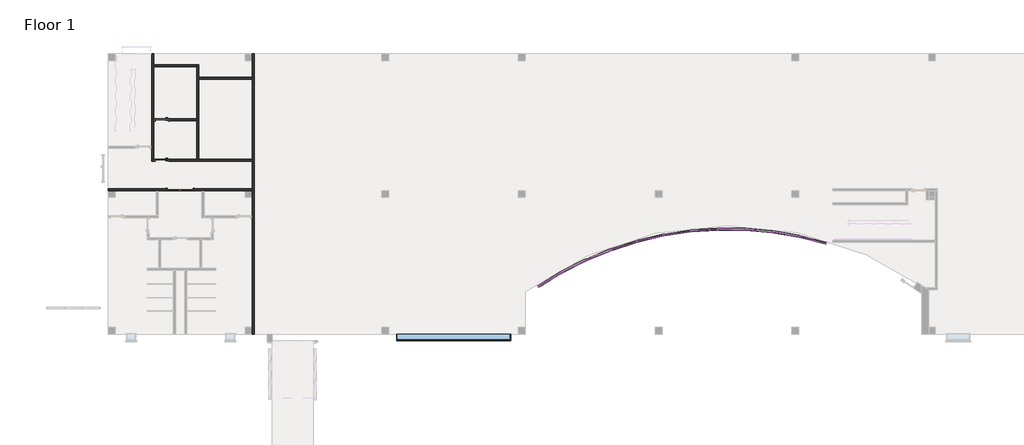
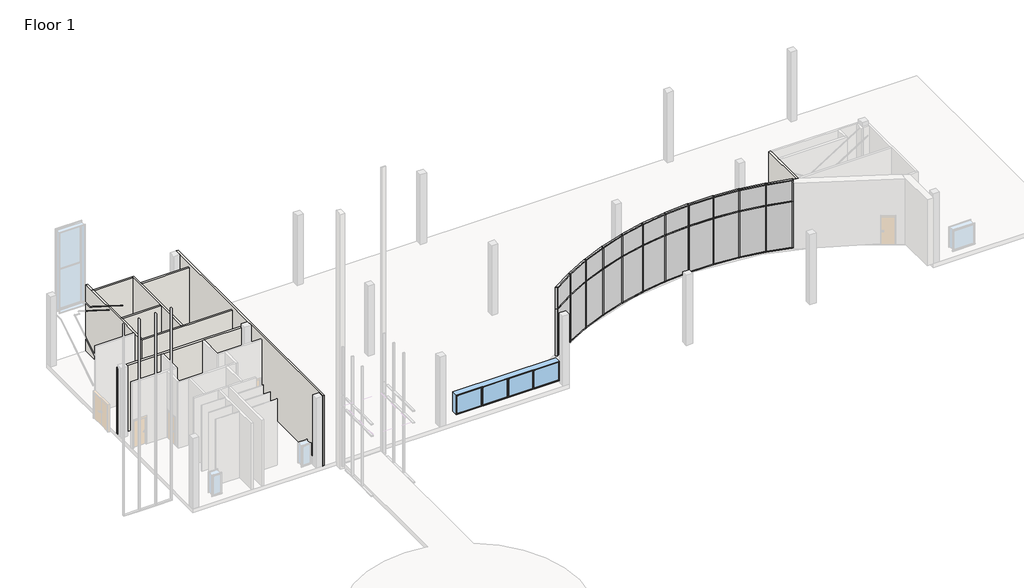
# One storey, part 10 of 11: 57 members, 22 plates, 9 walls, 3 doors, 1 window.
"""IFC4 building model written with IfcOpenShell, lengths in millimetres."""

from ifc_helpers import new_model, si_unit, frame, origin, origin_with_axes, place, context, project, spatial, polyline, circle_curve, outline, extrude, faceted_brep, transform, mapped, element, save
from ifc_brep_helpers import plane_surface, revolved_surface, advanced_brep
from components import door_f1125a27, door_36f17018, member_810865a4, member_a8d07153, member_2ed1719b, member_780b0c29, member_079229cb, member_fbbd287a, member_7b0b344d, member_78ef575d, member_0a0eb772, member_38e9bff8, member_4d31274b, member_062c1ce8, system_panel_glazed_f2ce933e, system_panel_glazed_7e716341, system_panel_glazed_e9b7a680, system_panel_glazed_22c1f233, system_panel_glazed_df2c046e, system_panel_glazed_ed69608e, window_casement_multi_sash_horizontal_25_x_5ft_0e5d08e3

model = new_model("IFC4")

# Units and contexts
model_context = context("Model", 3, world=origin())
ifc_project = project(units=[si_unit("LENGTHUNIT", "METRE", prefix="MILLI")], contexts=[model_context])

# Site, building, storey
site = spatial("IfcSite", under=ifc_project)
building = spatial("IfcBuilding", under=site)
storey = spatial("IfcBuildingStorey", under=building, Name="Floor 1", Elevation=0.0)

# Doors
placement = place(None, origin())
door_shape = door_f1125a27(model_context)
element("IfcDoor", 1, ObjectType="Dbl Acting Dbl Glass 1 : 68\" x 84\"", at=placement, inside=storey, context=model_context, shape_type="MappedRepresentation", body=[
    mapped(door_shape, transform((1836.7692024, 48316.361889, 0.0), x_axis=(-1.0, 0.0, 0.0), y_axis=(0.0, -1.0, 0.0), z_axis=(0.0, 0.0, 1.0))),
])
door_2_shape = door_36f17018(model_context)
element("IfcDoor", 2, ObjectType="Door-Passage-Single-Flush : 36\" x 84\"", at=placement, inside=storey, context=model_context, shape_type="MappedRepresentation", body=[
    mapped(door_2_shape, transform((617.5692024, 50253.111889, 0.0), x_axis=(-1.0, 0.0, 0.0), y_axis=(0.0, -1.0, 0.0), z_axis=(0.0, 0.0, 1.0))),
])
element("IfcDoor", 3, ObjectType="Door-Passage-Single-Flush : 36\" x 84\"", at=placement, inside=storey, context=model_context, shape_type="MappedRepresentation", body=[
    mapped(door_2_shape, transform((617.5692024, 52945.511889, 0.0), x_axis=(-1.0, 0.0, 0.0), y_axis=(0.0, -1.0, 0.0), z_axis=(0.0, 0.0, 1.0))),
])

# Members
member_shape = member_810865a4(model_context)
element("IfcMember", 4, ObjectType="Rectangular Mullion1 : 2.5\" x 5\" rectangular", at=placement, inside=storey, context=model_context, shape_type="MappedRepresentation", body=[
    mapped(member_shape, transform((43260.2618426, 45154.6273749, 0.0), x_axis=(-0.9777848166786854, 0.20961119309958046, 0.0), y_axis=(0.20961119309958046, 0.9777848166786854, 0.0), z_axis=(0.0, 0.0, -1.0))),
])
element("IfcMember", 5, ObjectType="Rectangular Mullion1 : 2.5\" x 5\" rectangular", at=placement, inside=storey, context=model_context, shape_type="MappedRepresentation", body=[
    mapped(member_shape, transform((41458.1406847, 45465.8648604, 0.0), x_axis=(-0.991449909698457, 0.1304878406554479, 0.0), y_axis=(0.1304878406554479, 0.991449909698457, 0.0), z_axis=(0.0, 0.0, -1.0))),
])
element("IfcMember", 6, ObjectType="Rectangular Mullion1 : 2.5\" x 5\" rectangular", at=placement, inside=storey, context=model_context, shape_type="MappedRepresentation", body=[
    mapped(member_shape, transform((39636.8583065, 45631.5149097, 0.0), x_axis=(-0.9987228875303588, 0.050523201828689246, 0.0), y_axis=(0.050523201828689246, 0.9987228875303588, 0.0), z_axis=(0.0, 0.0, -1.0))),
])
element("IfcMember", 7, ObjectType="Rectangular Mullion1 : 2.5\" x 5\" rectangular", at=placement, inside=storey, context=model_context, shape_type="MappedRepresentation", body=[
    mapped(member_shape, transform((37808.156952, 45650.5095372, 0.0), x_axis=(-0.9995568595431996, -0.02976717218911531, 0.0), y_axis=(-0.02976717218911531, 0.9995568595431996, 0.0), z_axis=(0.0, 0.0, -1.0))),
])
element("IfcMember", 8, ObjectType="Rectangular Mullion1 : 2.5\" x 5\" rectangular", at=placement, inside=storey, context=model_context, shape_type="MappedRepresentation", body=[
    mapped(member_shape, transform((35983.826697, 45522.7262801, 0.0), x_axis=(-0.9939464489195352, -0.10986563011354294, 0.0), y_axis=(-0.10986563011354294, 0.9939464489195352, 0.0), z_axis=(0.0, 0.0, -1.0))),
])
element("IfcMember", 9, ObjectType="Rectangular Mullion1 : 2.5\" x 5\" rectangular", at=placement, inside=storey, context=model_context, shape_type="MappedRepresentation", body=[
    mapped(member_shape, transform((34175.629436, 45248.9889876, 0.0), x_axis=(-0.9819278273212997, -0.1892557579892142, 0.0), y_axis=(-0.1892557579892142, 0.9819278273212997, 0.0), z_axis=(0.0, 0.0, -1.0))),
])
element("IfcMember", 10, ObjectType="Rectangular Mullion1 : 2.5\" x 5\" rectangular", at=placement, inside=storey, context=model_context, shape_type="MappedRepresentation", body=[
    mapped(member_shape, transform((32395.2230501, 44831.0625097, 0.0), x_axis=(-0.9635784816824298, -0.2674257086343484, 0.0), y_axis=(-0.2674257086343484, 0.9635784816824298, 0.0), z_axis=(0.0, 0.0, -1.0))),
])
element("IfcMember", 11, ObjectType="Rectangular Mullion1 : 2.5\" x 5\" rectangular", at=placement, inside=storey, context=model_context, shape_type="MappedRepresentation", body=[
    mapped(member_shape, transform((30654.0862459, 44271.6413185, 0.0), x_axis=(-0.9390167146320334, -0.3438715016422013, 0.0), y_axis=(-0.3438715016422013, 0.9390167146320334, 0.0), z_axis=(0.0, 0.0, -1.0))),
])
element("IfcMember", 12, ObjectType="Rectangular Mullion1 : 2.5\" x 5\" rectangular", at=placement, inside=storey, context=model_context, shape_type="MappedRepresentation", body=[
    mapped(member_shape, transform((28963.4445498, 43574.3321365, 0.0), x_axis=(-0.908400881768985, -0.41810027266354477, 0.0), y_axis=(-0.41810027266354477, 0.908400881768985, 0.0), z_axis=(0.0, 0.0, -1.0))),
])
element("IfcMember", 13, ObjectType="Rectangular Mullion1 : 2.5\" x 5\" rectangular", at=placement, inside=storey, context=model_context, shape_type="MappedRepresentation", body=[
    mapped(member_shape, transform((27334.1979339, 42743.6306832, 0.0), x_axis=(-0.8719283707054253, -0.4896334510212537, 0.0), y_axis=(-0.4896334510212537, 0.8719283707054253, 0.0), z_axis=(0.0, 0.0, -1.0))),
])
member_2_shape = member_a8d07153(model_context)
element("IfcMember", 14, ObjectType="Rectangular Mullion1 : 2.5\" x 5\" rectangular", at=placement, inside=storey, context=model_context, shape_type="MappedRepresentation", body=[
    mapped(member_2_shape, transform((25856.7132783, 41835.4455096, 5334.0), x_axis=(0.0, 0.0, 1.0), y_axis=(-0.5236640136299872, 0.8519248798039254, 0.0), z_axis=(-0.8519248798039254, -0.5236640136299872, 0.0))),
])
member_3_shape = member_2ed1719b(model_context)
element("IfcMember", 15, ObjectType="Rectangular Mullion1 : 2.5\" x 5\" rectangular", at=placement, inside=storey, context=model_context, shape_type="MappedRepresentation", body=[
    mapped(member_3_shape, transform((44970.0981911, 44715.6013715, 0.0), x_axis=(0.0, 0.0, -1.0), y_axis=(0.24869767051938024, 0.9685811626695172, 0.0), z_axis=(0.9685811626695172, -0.24869767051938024, 0.0))),
])
member_4_shape = member_780b0c29(model_context)
element("IfcMember", 16, ObjectType="Rectangular Mullion1 : 2.5\" x 5\" rectangular", at=placement, inside=storey, context=model_context, shape_type="MappedRepresentation", body=[
    mapped(member_4_shape, transform((43291.0142945, 45146.7312239, 3657.6), x_axis=(0.0, 0.0, 1.0), y_axis=(0.24869767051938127, 0.968581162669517, 0.0), z_axis=(-0.968581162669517, 0.24869767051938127, 0.0))),
])
member_5_shape = member_079229cb(model_context)
element("IfcMember", 17, ObjectType="Rectangular Mullion1 : 2.5\" x 5\" rectangular", at=placement, inside=storey, context=model_context, shape_type="MappedRepresentation", body=[
    mapped(member_5_shape, transform((41489.4275104, 45460.4614318, 3657.6), x_axis=(0.0, 0.0, 1.0), y_axis=(0.17018672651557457, 0.9854118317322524, 0.0), z_axis=(-0.9854118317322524, 0.17018672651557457, 0.0))),
])
element("IfcMember", 18, ObjectType="Rectangular Mullion1 : 2.5\" x 5\" rectangular", at=placement, inside=storey, context=model_context, shape_type="MappedRepresentation", body=[
    mapped(member_5_shape, transform((39668.4777923, 45628.6390408, 3657.6), x_axis=(0.0, 0.0, 1.0), y_axis=(0.09057854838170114, 0.9958893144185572, 0.0), z_axis=(-0.9958893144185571, 0.09057854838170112, 0.0))),
])
element("IfcMember", 19, ObjectType="Rectangular Mullion1 : 2.5\" x 5\" rectangular", at=placement, inside=storey, context=model_context, shape_type="MappedRepresentation", body=[
    mapped(member_5_shape, transform((37839.9052394, 45650.1797694, 3657.6), x_axis=(0.0, 0.0, 1.0), y_axis=(0.010386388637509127, 0.9999460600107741, 0.0), z_axis=(-0.9999460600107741, 0.010386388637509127, 0.0))),
])
element("IfcMember", 20, ObjectType="Rectangular Mullion1 : 2.5\" x 5\" rectangular", at=placement, inside=storey, context=model_context, shape_type="MappedRepresentation", body=[
    mapped(member_5_shape, transform((36015.4990973, 45524.9447394, 3657.6), x_axis=(0.0, 0.0, 1.0), y_axis=(-0.06987273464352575, 0.9975559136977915, 0.0), z_axis=(-0.9975559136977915, -0.06987273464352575, 0.0))),
])
element("IfcMember", 21, ObjectType="Rectangular Mullion1 : 2.5\" x 5\" rectangular", at=placement, inside=storey, context=model_context, shape_type="MappedRepresentation", body=[
    mapped(member_5_shape, transform((34207.0217496, 45253.7413712, 3657.6), x_axis=(0.0, 0.0, 1.0), y_axis=(-0.14968137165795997, 0.9887342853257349, 0.0), z_axis=(-0.9887342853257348, -0.14968137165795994, 0.0))),
])
element("IfcMember", 22, ObjectType="Rectangular Mullion1 : 2.5\" x 5\" rectangular", at=placement, inside=storey, context=model_context, shape_type="MappedRepresentation", body=[
    mapped(member_5_shape, transform((32426.1328832, 44838.3181777, 3657.6), x_axis=(0.0, 0.0, 1.0), y_axis=(-0.22852497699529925, 0.9735380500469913, 0.0), z_axis=(-0.9735380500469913, -0.22852497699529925, 0.0))),
])
element("IfcMember", 23, ObjectType="Rectangular Mullion1 : 2.5\" x 5\" rectangular", at=placement, inside=storey, context=model_context, shape_type="MappedRepresentation", body=[
    mapped(member_5_shape, transform((30684.3143154, 44281.3534919, 3657.6), x_axis=(0.0, 0.0, 1.0), y_axis=(-0.3058952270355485, 0.9520651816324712, 0.0), z_axis=(-0.9520651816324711, -0.30589522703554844, 0.0))),
])
element("IfcMember", 24, ObjectType="Rectangular Mullion1 : 2.5\" x 5\" rectangular", at=placement, inside=storey, context=model_context, shape_type="MappedRepresentation", body=[
    mapped(member_5_shape, transform((28992.7959681, 43586.4381987, 3657.6), x_axis=(0.0, 0.0, 1.0), y_axis=(-0.38129329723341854, 0.924454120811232, 0.0), z_axis=(-0.924454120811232, -0.38129329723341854, 0.0))),
])
element("IfcMember", 25, ObjectType="Rectangular Mullion1 : 2.5\" x 5\" rectangular", at=placement, inside=storey, context=model_context, shape_type="MappedRepresentation", body=[
    mapped(member_5_shape, transform((27362.4834654, 42758.0525834, 3657.6), x_axis=(0.0, 0.0, 1.0), y_axis=(-0.45423307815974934, 0.8908828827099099, 0.0), z_axis=(-0.8908828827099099, -0.45423307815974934, 0.0))),
])
member_6_shape = member_fbbd287a(model_context)
element("IfcMember", 26, ObjectType="Rectangular Mullion1 : 2.5\" x 5\" rectangular", at=placement, inside=storey, context=model_context, shape_type="MappedRepresentation", body=[
    mapped(member_6_shape, transform((25856.7132783, 41835.4455096, 3657.6), x_axis=(0.0, 0.0, 1.0), y_axis=(-0.523664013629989, 0.8519248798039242, 0.0), z_axis=(-0.8519248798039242, -0.523664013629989, 0.0))),
])
member_7_shape = member_7b0b344d(model_context)
element("IfcMember", 27, ObjectType="Rectangular Mullion1 : 2.5\" x 5\" rectangular", at=placement, inside=storey, context=model_context, shape_type="MappedRepresentation", body=[
    mapped(member_7_shape, transform((43228.975017, 45160.0308035, 0.0), x_axis=(0.0, 0.0, -1.0), y_axis=(0.1701867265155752, 0.9854118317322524, 0.0), z_axis=(0.9854118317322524, -0.1701867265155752, 0.0))),
])
element("IfcMember", 28, ObjectType="Rectangular Mullion1 : 2.5\" x 5\" rectangular", at=placement, inside=storey, context=model_context, shape_type="MappedRepresentation", body=[
    mapped(member_7_shape, transform((41426.521199, 45468.7407293, 0.0), x_axis=(0.0, 0.0, -1.0), y_axis=(0.09057854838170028, 0.9958893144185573, 0.0), z_axis=(0.9958893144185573, -0.09057854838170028, 0.0))),
])
element("IfcMember", 29, ObjectType="Rectangular Mullion1 : 2.5\" x 5\" rectangular", at=placement, inside=storey, context=model_context, shape_type="MappedRepresentation", body=[
    mapped(member_7_shape, transform((39605.1100191, 45631.8446775, 0.0), x_axis=(0.0, 0.0, -1.0), y_axis=(0.010386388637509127, 0.9999460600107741, 0.0), z_axis=(0.9999460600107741, -0.010386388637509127, 0.0))),
])
element("IfcMember", 30, ObjectType="Rectangular Mullion1 : 2.5\" x 5\" rectangular", at=placement, inside=storey, context=model_context, shape_type="MappedRepresentation", body=[
    mapped(member_7_shape, transform((37776.4845517, 45648.2910779, 0.0), x_axis=(0.0, 0.0, -1.0), y_axis=(-0.06987273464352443, 0.9975559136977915, 0.0), z_axis=(0.9975559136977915, 0.06987273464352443, 0.0))),
])
element("IfcMember", 31, ObjectType="Rectangular Mullion1 : 2.5\" x 5\" rectangular", at=placement, inside=storey, context=model_context, shape_type="MappedRepresentation", body=[
    mapped(member_7_shape, transform((35952.4343835, 45517.9738965, 0.0), x_axis=(0.0, 0.0, -1.0), y_axis=(-0.14968137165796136, 0.9887342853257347, 0.0), z_axis=(0.9887342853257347, 0.14968137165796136, 0.0))),
])
element("IfcMember", 32, ObjectType="Rectangular Mullion1 : 2.5\" x 5\" rectangular", at=placement, inside=storey, context=model_context, shape_type="MappedRepresentation", body=[
    mapped(member_7_shape, transform((34144.7196029, 45241.7333196, 0.0), x_axis=(0.0, 0.0, -1.0), y_axis=(-0.22852497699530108, 0.9735380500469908, 0.0), z_axis=(0.9735380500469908, 0.22852497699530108, 0.0))),
])
element("IfcMember", 33, ObjectType="Rectangular Mullion1 : 2.5\" x 5\" rectangular", at=placement, inside=storey, context=model_context, shape_type="MappedRepresentation", body=[
    mapped(member_7_shape, transform((32364.9949806, 44821.3503362, 0.0), x_axis=(0.0, 0.0, -1.0), y_axis=(-0.30589522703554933, 0.9520651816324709, 0.0), z_axis=(0.9520651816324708, 0.3058952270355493, 0.0))),
])
element("IfcMember", 34, ObjectType="Rectangular Mullion1 : 2.5\" x 5\" rectangular", at=placement, inside=storey, context=model_context, shape_type="MappedRepresentation", body=[
    mapped(member_7_shape, transform((30624.7348276, 44259.5352563, 0.0), x_axis=(0.0, 0.0, -1.0), y_axis=(-0.38129329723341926, 0.9244541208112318, 0.0), z_axis=(0.9244541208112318, 0.38129329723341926, 0.0))),
])
element("IfcMember", 35, ObjectType="Rectangular Mullion1 : 2.5\" x 5\" rectangular", at=placement, inside=storey, context=model_context, shape_type="MappedRepresentation", body=[
    mapped(member_7_shape, transform((28935.1590182, 43559.9102363, 0.0), x_axis=(0.0, 0.0, -1.0), y_axis=(-0.4542330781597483, 0.8908828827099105, 0.0), z_axis=(0.8908828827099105, 0.4542330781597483, 0.0))),
])
member_8_shape = member_78ef575d(model_context)
element("IfcMember", 36, ObjectType="Rectangular Mullion1 : 2.5\" x 5\" rectangular", at=placement, inside=storey, context=model_context, shape_type="MappedRepresentation", body=[
    mapped(member_8_shape, transform((27307.1493189, 42727.0043507, 0.0), x_axis=(0.0, 0.0, -1.0), y_axis=(-0.5236640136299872, 0.8519248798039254, 0.0), z_axis=(0.8519248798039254, 0.5236640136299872, 0.0))),
])
member_9_shape = member_0a0eb772(model_context)
element("IfcMember", 37, ObjectType="Rectangular Mullion1 : 2.5\" x 5\" rectangular", at=placement, inside=storey, context=model_context, shape_type="MappedRepresentation", body=[
    mapped(member_9_shape, transform((43291.0142945, 45146.7312239, 5334.0), x_axis=(0.0, 0.0, 1.0), y_axis=(0.24869767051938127, 0.968581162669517, 0.0), z_axis=(-0.968581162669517, 0.24869767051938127, 0.0))),
])
element("IfcMember", 38, ObjectType="Rectangular Mullion1 : 2.5\" x 5\" rectangular", at=placement, inside=storey, context=model_context, shape_type="MappedRepresentation", body=[
    mapped(member_7_shape, transform((41489.4275104, 45460.4614318, 5334.0), x_axis=(0.0, 0.0, 1.0), y_axis=(0.17018672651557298, 0.9854118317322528, 0.0), z_axis=(-0.9854118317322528, 0.17018672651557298, 0.0))),
])
element("IfcMember", 39, ObjectType="Rectangular Mullion1 : 2.5\" x 5\" rectangular", at=placement, inside=storey, context=model_context, shape_type="MappedRepresentation", body=[
    mapped(member_7_shape, transform((39668.4777923, 45628.6390408, 5334.0), x_axis=(0.0, 0.0, 1.0), y_axis=(0.09057854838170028, 0.9958893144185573, 0.0), z_axis=(-0.9958893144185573, 0.09057854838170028, 0.0))),
])
element("IfcMember", 40, ObjectType="Rectangular Mullion1 : 2.5\" x 5\" rectangular", at=placement, inside=storey, context=model_context, shape_type="MappedRepresentation", body=[
    mapped(member_7_shape, transform((37839.9052394, 45650.1797694, 5334.0), x_axis=(0.0, 0.0, 1.0), y_axis=(0.010386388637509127, 0.9999460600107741, 0.0), z_axis=(-0.9999460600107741, 0.010386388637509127, 0.0))),
])
element("IfcMember", 41, ObjectType="Rectangular Mullion1 : 2.5\" x 5\" rectangular", at=placement, inside=storey, context=model_context, shape_type="MappedRepresentation", body=[
    mapped(member_7_shape, transform((36015.4990973, 45524.9447394, 5334.0), x_axis=(0.0, 0.0, 1.0), y_axis=(-0.0698727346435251, 0.9975559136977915, 0.0), z_axis=(-0.9975559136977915, -0.0698727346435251, 0.0))),
])
element("IfcMember", 42, ObjectType="Rectangular Mullion1 : 2.5\" x 5\" rectangular", at=placement, inside=storey, context=model_context, shape_type="MappedRepresentation", body=[
    mapped(member_7_shape, transform((34207.0217496, 45253.7413712, 5334.0), x_axis=(0.0, 0.0, 1.0), y_axis=(-0.14968137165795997, 0.9887342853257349, 0.0), z_axis=(-0.9887342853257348, -0.14968137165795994, 0.0))),
])
element("IfcMember", 43, ObjectType="Rectangular Mullion1 : 2.5\" x 5\" rectangular", at=placement, inside=storey, context=model_context, shape_type="MappedRepresentation", body=[
    mapped(member_7_shape, transform((32426.1328832, 44838.3181777, 5334.0), x_axis=(0.0, 0.0, 1.0), y_axis=(-0.22852497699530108, 0.9735380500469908, 0.0), z_axis=(-0.9735380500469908, -0.22852497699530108, 0.0))),
])
element("IfcMember", 44, ObjectType="Rectangular Mullion1 : 2.5\" x 5\" rectangular", at=placement, inside=storey, context=model_context, shape_type="MappedRepresentation", body=[
    mapped(member_7_shape, transform((30684.3143154, 44281.3534919, 5334.0), x_axis=(0.0, 0.0, 1.0), y_axis=(-0.30589522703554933, 0.9520651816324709, 0.0), z_axis=(-0.9520651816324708, -0.3058952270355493, 0.0))),
])
element("IfcMember", 45, ObjectType="Rectangular Mullion1 : 2.5\" x 5\" rectangular", at=placement, inside=storey, context=model_context, shape_type="MappedRepresentation", body=[
    mapped(member_7_shape, transform((28992.7959681, 43586.4381987, 5334.0), x_axis=(0.0, 0.0, 1.0), y_axis=(-0.38129329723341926, 0.9244541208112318, 0.0), z_axis=(-0.9244541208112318, -0.38129329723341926, 0.0))),
])
element("IfcMember", 46, ObjectType="Rectangular Mullion1 : 2.5\" x 5\" rectangular", at=placement, inside=storey, context=model_context, shape_type="MappedRepresentation", body=[
    mapped(member_7_shape, transform((27362.4834654, 42758.0525834, 5334.0), x_axis=(0.0, 0.0, 1.0), y_axis=(-0.4542330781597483, 0.8908828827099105, 0.0), z_axis=(-0.8908828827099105, -0.4542330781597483, 0.0))),
])
member_10_shape = member_38e9bff8(model_context)
element("IfcMember", 47, ObjectType="Rectangular Mullion1 : 2.5\" x 5\" rectangular", at=placement, inside=storey, context=model_context, shape_type="MappedRepresentation", body=[
    mapped(member_10_shape, transform((43260.2618426, 45154.6273749, 3657.6), x_axis=(-0.9777848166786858, 0.20961119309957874, 0.0), y_axis=(0.20961119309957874, 0.9777848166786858, 0.0), z_axis=(0.0, 0.0, -1.0))),
])
element("IfcMember", 48, ObjectType="Rectangular Mullion1 : 2.5\" x 5\" rectangular", at=placement, inside=storey, context=model_context, shape_type="MappedRepresentation", body=[
    mapped(member_10_shape, transform((41458.1406847, 45465.8648604, 3657.6), x_axis=(-0.991449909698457, 0.1304878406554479, 0.0), y_axis=(0.1304878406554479, 0.991449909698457, 0.0), z_axis=(0.0, 0.0, -1.0))),
])
element("IfcMember", 49, ObjectType="Rectangular Mullion1 : 2.5\" x 5\" rectangular", at=placement, inside=storey, context=model_context, shape_type="MappedRepresentation", body=[
    mapped(member_10_shape, transform((39636.8583065, 45631.5149097, 3657.6), x_axis=(-0.9987228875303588, 0.050523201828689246, 0.0), y_axis=(0.050523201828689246, 0.9987228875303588, 0.0), z_axis=(0.0, 0.0, -1.0))),
])
element("IfcMember", 50, ObjectType="Rectangular Mullion1 : 2.5\" x 5\" rectangular", at=placement, inside=storey, context=model_context, shape_type="MappedRepresentation", body=[
    mapped(member_10_shape, transform((37808.156952, 45650.5095372, 3657.6), x_axis=(-0.9995568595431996, -0.02976717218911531, 0.0), y_axis=(-0.02976717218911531, 0.9995568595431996, 0.0), z_axis=(0.0, 0.0, -1.0))),
])
element("IfcMember", 51, ObjectType="Rectangular Mullion1 : 2.5\" x 5\" rectangular", at=placement, inside=storey, context=model_context, shape_type="MappedRepresentation", body=[
    mapped(member_10_shape, transform((35983.826697, 45522.7262801, 3657.6), x_axis=(-0.9939464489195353, -0.10986563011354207, 0.0), y_axis=(-0.10986563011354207, 0.9939464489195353, 0.0), z_axis=(0.0, 0.0, -1.0))),
])
element("IfcMember", 52, ObjectType="Rectangular Mullion1 : 2.5\" x 5\" rectangular", at=placement, inside=storey, context=model_context, shape_type="MappedRepresentation", body=[
    mapped(member_10_shape, transform((34175.629436, 45248.9889876, 3657.6), x_axis=(-0.9819278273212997, -0.1892557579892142, 0.0), y_axis=(-0.1892557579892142, 0.9819278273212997, 0.0), z_axis=(0.0, 0.0, -1.0))),
])
element("IfcMember", 53, ObjectType="Rectangular Mullion1 : 2.5\" x 5\" rectangular", at=placement, inside=storey, context=model_context, shape_type="MappedRepresentation", body=[
    mapped(member_10_shape, transform((32395.2230501, 44831.0625097, 3657.6), x_axis=(-0.9635784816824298, -0.2674257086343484, 0.0), y_axis=(-0.2674257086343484, 0.9635784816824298, 0.0), z_axis=(0.0, 0.0, -1.0))),
])
element("IfcMember", 54, ObjectType="Rectangular Mullion1 : 2.5\" x 5\" rectangular", at=placement, inside=storey, context=model_context, shape_type="MappedRepresentation", body=[
    mapped(member_10_shape, transform((30654.0862459, 44271.6413185, 3657.6), x_axis=(-0.9390167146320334, -0.3438715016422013, 0.0), y_axis=(-0.3438715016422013, 0.9390167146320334, 0.0), z_axis=(0.0, 0.0, -1.0))),
])
element("IfcMember", 55, ObjectType="Rectangular Mullion1 : 2.5\" x 5\" rectangular", at=placement, inside=storey, context=model_context, shape_type="MappedRepresentation", body=[
    mapped(member_10_shape, transform((28963.4445498, 43574.3321365, 3657.6), x_axis=(-0.908400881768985, -0.41810027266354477, 0.0), y_axis=(-0.41810027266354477, 0.908400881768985, 0.0), z_axis=(0.0, 0.0, -1.0))),
])
element("IfcMember", 56, ObjectType="Rectangular Mullion1 : 2.5\" x 5\" rectangular", at=placement, inside=storey, context=model_context, shape_type="MappedRepresentation", body=[
    mapped(member_10_shape, transform((27334.1979339, 42743.6306832, 3657.6), x_axis=(-0.8719283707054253, -0.4896334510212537, 0.0), y_axis=(-0.4896334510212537, 0.8719283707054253, 0.0), z_axis=(0.0, 0.0, -1.0))),
])
member_11_shape = member_4d31274b(model_context)
element("IfcMember", 57, ObjectType="Rectangular Mullion1 : 2.5\" x 5\" rectangular", at=placement, inside=storey, context=model_context, shape_type="MappedRepresentation", body=[
    mapped(member_11_shape, transform((25802.6160485, 41802.1928448, 0.0), x_axis=(-0.8519248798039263, -0.5236640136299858, 0.0), y_axis=(-0.5236640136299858, 0.8519248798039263, 0.0), z_axis=(0.0, 0.0, -1.0))),
])
member_12_shape = member_062c1ce8(model_context)
element("IfcMember", 58, ObjectType="Rectangular Mullion1 : 2.5\" x 5\" rectangular", at=placement, inside=storey, context=model_context, shape_type="MappedRepresentation", body=[
    mapped(member_12_shape, transform((45031.6030949, 44699.8090694, 5334.0), x_axis=(0.9685811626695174, -0.2486976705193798, 0.0), y_axis=(0.2486976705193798, 0.9685811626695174, 0.0), z_axis=(0.0, 0.0, 1.0))),
])
element("IfcMember", 59, ObjectType="Rectangular Mullion1 : 2.5\" x 5\" rectangular", at=placement, inside=storey, context=model_context, shape_type="MappedRepresentation", body=[
    mapped(member_11_shape, transform((45031.6030949, 44699.8090694, 3657.6), x_axis=(0.9685811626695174, -0.2486976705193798, 0.0), y_axis=(0.2486976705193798, 0.9685811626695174, 0.0), z_axis=(0.0, 0.0, 1.0))),
])
element("IfcMember", 60, ObjectType="Rectangular Mullion1 : 2.5\" x 5\" rectangular", at=placement, inside=storey, context=model_context, shape_type="MappedRepresentation", body=[
    mapped(member_12_shape, transform((25802.6160485, 41802.1928448, 3657.6), x_axis=(-0.8519248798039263, -0.5236640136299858, 0.0), y_axis=(-0.5236640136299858, 0.8519248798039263, 0.0), z_axis=(0.0, 0.0, -1.0))),
])

# Plates
system_panel_glazed_shape = system_panel_glazed_f2ce933e(model_context)
element("IfcPlate", 61, ObjectType="System Panel : Glazed", at=placement, inside=storey, context=model_context, shape_type="MappedRepresentation", body=[
    mapped(system_panel_glazed_shape, transform((44130.5562428, 44931.1662977, 63.5), x_axis=(-0.9685811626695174, 0.2486976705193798, 0.0), y_axis=(-0.2486976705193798, -0.9685811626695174, 0.0), z_axis=(0.0, 0.0, 1.0))),
])
system_panel_glazed_2_shape = system_panel_glazed_7e716341(model_context)
element("IfcPlate", 62, ObjectType="System Panel : Glazed", at=placement, inside=storey, context=model_context, shape_type="MappedRepresentation", body=[
    mapped(system_panel_glazed_2_shape, transform((42359.2012637, 45310.2461177, 63.5), x_axis=(-0.9854118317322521, 0.17018672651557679, 0.0), y_axis=(-0.17018672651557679, -0.9854118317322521, 0.0), z_axis=(0.0, 0.0, 1.0))),
])
element("IfcPlate", 63, ObjectType="System Panel : Glazed", at=placement, inside=storey, context=model_context, shape_type="MappedRepresentation", body=[
    mapped(system_panel_glazed_2_shape, transform((40547.4994956, 45548.689885, 63.5), x_axis=(-0.9958893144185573, 0.09057854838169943, 0.0), y_axis=(-0.09057854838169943, -0.9958893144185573, 0.0), z_axis=(0.0, 0.0, 1.0))),
])
element("IfcPlate", 64, ObjectType="System Panel : Glazed", at=placement, inside=storey, context=model_context, shape_type="MappedRepresentation", body=[
    mapped(system_panel_glazed_2_shape, transform((38722.5076293, 45641.0122234, 63.5), x_axis=(-0.9999460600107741, 0.010386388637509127, 0.0), y_axis=(-0.010386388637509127, -0.9999460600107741, 0.0), z_axis=(0.0, 0.0, 1.0))),
])
element("IfcPlate", 65, ObjectType="System Panel : Glazed", at=placement, inside=storey, context=model_context, shape_type="MappedRepresentation", body=[
    mapped(system_panel_glazed_2_shape, transform((36895.9918245, 45586.6179087, 63.5), x_axis=(-0.9975559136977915, -0.0698727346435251, 0.0), y_axis=(0.0698727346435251, -0.9975559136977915, 0.0), z_axis=(0.0, 0.0, 1.0))),
])
element("IfcPlate", 66, ObjectType="System Panel : Glazed", at=placement, inside=storey, context=model_context, shape_type="MappedRepresentation", body=[
    mapped(system_panel_glazed_2_shape, transform((35079.7280665, 45385.8576339, 63.5), x_axis=(-0.9887342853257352, -0.14968137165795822, 0.0), y_axis=(0.14968137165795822, -0.9887342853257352, 0.0), z_axis=(0.0, 0.0, 1.0))),
])
element("IfcPlate", 67, ObjectType="System Panel : Glazed", at=placement, inside=storey, context=model_context, shape_type="MappedRepresentation", body=[
    mapped(system_panel_glazed_2_shape, transform((33285.426243, 45040.0257486, 63.5), x_axis=(-0.9735380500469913, -0.22852497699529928, 0.0), y_axis=(0.22852497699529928, -0.9735380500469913, 0.0), z_axis=(0.0, 0.0, 1.0))),
])
element("IfcPlate", 68, ObjectType="System Panel : Glazed", at=placement, inside=storey, context=model_context, shape_type="MappedRepresentation", body=[
    mapped(system_panel_glazed_2_shape, transform((31524.654648, 44551.3519141, 63.5), x_axis=(-0.9520651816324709, -0.3058952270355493, 0.0), y_axis=(0.3058952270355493, -0.9520651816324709, 0.0), z_axis=(0.0, 0.0, 1.0))),
])
element("IfcPlate", 69, ObjectType="System Panel : Glazed", at=placement, inside=storey, context=model_context, shape_type="MappedRepresentation", body=[
    mapped(system_panel_glazed_2_shape, transform((29808.7653978, 43922.9867275, 63.5), x_axis=(-0.9244541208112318, -0.38129329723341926, 0.0), y_axis=(0.38129329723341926, -0.9244541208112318, 0.0), z_axis=(0.0, 0.0, 1.0))),
])
element("IfcPlate", 70, ObjectType="System Panel : Glazed", at=placement, inside=storey, context=model_context, shape_type="MappedRepresentation", body=[
    mapped(system_panel_glazed_2_shape, transform((28148.8212418, 43158.9814098, 63.5), x_axis=(-0.8908828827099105, -0.45423307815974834, 0.0), y_axis=(0.45423307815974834, -0.8908828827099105, 0.0), z_axis=(0.0, 0.0, 1.0))),
])
system_panel_glazed_3_shape = system_panel_glazed_e9b7a680(model_context)
element("IfcPlate", 71, ObjectType="System Panel : Glazed", at=placement, inside=storey, context=model_context, shape_type="MappedRepresentation", body=[
    mapped(system_panel_glazed_3_shape, transform((26581.9312986, 42281.2249302, 63.5), x_axis=(-0.8519248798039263, -0.5236640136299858, 0.0), y_axis=(0.5236640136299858, -0.8519248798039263, 0.0), z_axis=(0.0, 0.0, 1.0))),
])
system_panel_glazed_4_shape = system_panel_glazed_22c1f233(model_context)
element("IfcPlate", 72, ObjectType="System Panel : Glazed", at=placement, inside=storey, context=model_context, shape_type="MappedRepresentation", body=[
    mapped(system_panel_glazed_4_shape, transform((44130.5562428, 44931.1662977, 3689.35), x_axis=(-0.9685811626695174, 0.2486976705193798, 0.0), y_axis=(-0.2486976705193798, -0.9685811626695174, 0.0), z_axis=(0.0, 0.0, 1.0))),
])
system_panel_glazed_5_shape = system_panel_glazed_df2c046e(model_context)
element("IfcPlate", 73, ObjectType="System Panel : Glazed", at=placement, inside=storey, context=model_context, shape_type="MappedRepresentation", body=[
    mapped(system_panel_glazed_5_shape, transform((42359.2012637, 45310.2461177, 3689.35), x_axis=(-0.9854118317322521, 0.17018672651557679, 0.0), y_axis=(-0.17018672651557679, -0.9854118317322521, 0.0), z_axis=(0.0, 0.0, 1.0))),
])
element("IfcPlate", 74, ObjectType="System Panel : Glazed", at=placement, inside=storey, context=model_context, shape_type="MappedRepresentation", body=[
    mapped(system_panel_glazed_5_shape, transform((40547.4994956, 45548.689885, 3689.35), x_axis=(-0.9958893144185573, 0.09057854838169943, 0.0), y_axis=(-0.09057854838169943, -0.9958893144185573, 0.0), z_axis=(0.0, 0.0, 1.0))),
])
element("IfcPlate", 75, ObjectType="System Panel : Glazed", at=placement, inside=storey, context=model_context, shape_type="MappedRepresentation", body=[
    mapped(system_panel_glazed_5_shape, transform((38722.5076293, 45641.0122234, 3689.35), x_axis=(-0.9999460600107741, 0.010386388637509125, 0.0), y_axis=(-0.010386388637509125, -0.9999460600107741, 0.0), z_axis=(0.0, 0.0, 1.0))),
])
element("IfcPlate", 76, ObjectType="System Panel : Glazed", at=placement, inside=storey, context=model_context, shape_type="MappedRepresentation", body=[
    mapped(system_panel_glazed_5_shape, transform((36895.9918245, 45586.6179087, 3689.35), x_axis=(-0.9975559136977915, -0.06987273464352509, 0.0), y_axis=(0.06987273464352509, -0.9975559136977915, 0.0), z_axis=(0.0, 0.0, 1.0))),
])
element("IfcPlate", 77, ObjectType="System Panel : Glazed", at=placement, inside=storey, context=model_context, shape_type="MappedRepresentation", body=[
    mapped(system_panel_glazed_5_shape, transform((35079.7280665, 45385.8576339, 3689.35), x_axis=(-0.9887342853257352, -0.1496813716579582, 0.0), y_axis=(0.1496813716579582, -0.9887342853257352, 0.0), z_axis=(0.0, 0.0, 1.0))),
])
element("IfcPlate", 78, ObjectType="System Panel : Glazed", at=placement, inside=storey, context=model_context, shape_type="MappedRepresentation", body=[
    mapped(system_panel_glazed_5_shape, transform((33285.426243, 45040.0257486, 3689.35), x_axis=(-0.9735380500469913, -0.22852497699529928, 0.0), y_axis=(0.22852497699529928, -0.9735380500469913, 0.0), z_axis=(0.0, 0.0, 1.0))),
])
element("IfcPlate", 79, ObjectType="System Panel : Glazed", at=placement, inside=storey, context=model_context, shape_type="MappedRepresentation", body=[
    mapped(system_panel_glazed_5_shape, transform((31524.654648, 44551.3519141, 3689.35), x_axis=(-0.9520651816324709, -0.30589522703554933, 0.0), y_axis=(0.30589522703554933, -0.9520651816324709, 0.0), z_axis=(0.0, 0.0, 1.0))),
])
element("IfcPlate", 80, ObjectType="System Panel : Glazed", at=placement, inside=storey, context=model_context, shape_type="MappedRepresentation", body=[
    mapped(system_panel_glazed_5_shape, transform((29808.7653978, 43922.9867275, 3689.35), x_axis=(-0.9244541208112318, -0.3812932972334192, 0.0), y_axis=(0.3812932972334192, -0.9244541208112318, 0.0), z_axis=(0.0, 0.0, 1.0))),
])
element("IfcPlate", 81, ObjectType="System Panel : Glazed", at=placement, inside=storey, context=model_context, shape_type="MappedRepresentation", body=[
    mapped(system_panel_glazed_5_shape, transform((28148.8212418, 43158.9814098, 3689.35), x_axis=(-0.8908828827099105, -0.45423307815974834, 0.0), y_axis=(0.45423307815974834, -0.8908828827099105, 0.0), z_axis=(0.0, 0.0, 1.0))),
])
system_panel_glazed_6_shape = system_panel_glazed_ed69608e(model_context)
element("IfcPlate", 82, ObjectType="System Panel : Glazed", at=placement, inside=storey, context=model_context, shape_type="MappedRepresentation", body=[
    mapped(system_panel_glazed_6_shape, transform((26581.9312986, 42281.2249302, 3689.35), x_axis=(-0.8519248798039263, -0.5236640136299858, 0.0), y_axis=(0.5236640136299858, -0.8519248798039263, 0.0), z_axis=(0.0, 0.0, 1.0))),
])

# Walls
element("IfcWall", 83, ObjectType="Generic - 6\" Masonry", at=placement, inside=storey, context=model_context, shape_type="Brep", body=[
    faceted_brep([(6656.4192024, 57366.699389, 0.0), (6656.4192024, 55815.711889, 0.0), (6656.4192024, 55676.011889, 0.0), (6656.4192024, 50329.311889, 0.0), (6656.4192024, 50189.611889, 0.0), (6656.4192024, 48360.811889, 0.0), (6656.4192024, 48221.111889, 0.0), (6656.4192024, 46532.011889, 0.0), (6656.4192024, 46392.311889, 0.0), (6656.4192024, 38618.324389, 0.0), (6656.4192024, 38618.324389, 5486.4), (6656.4192024, 57366.699389, 5486.4), (6799.2942024, 57366.699389, 0.0), (6799.2942024, 57366.699389, 5486.4), (6799.2942024, 38618.324389, 5486.4), (6799.2942024, 38618.324389, 0.0)], [[[0, 1, 2, 3, 4, 5, 6, 7, 8, 9, 10, 11]], [[12, 13, 14, 15]], [[9, 8, 7, 6, 5, 4, 3, 2, 1, 0, 12, 15]], [[11, 10, 14, 13]], [[10, 9, 15, 14]], [[0, 11, 13, 12]]]),
])
element("IfcWall", 84, ObjectType="Interior - 5 1/2\" Partition (1-hr)", at=placement, inside=storey, context=model_context, shape_type="Brep", body=[
    faceted_brep([(973.1692024, 48360.811889, 2133.6), (973.1692024, 48360.811889, 0.0), (-2965.7977165, 48360.811889, 0.0), (-2965.7977165, 48360.811889, 5181.6), (6656.4192024, 48360.811889, 5181.6), (6656.4192024, 48360.811889, 0.0), (2700.3692024, 48360.811889, 0.0), (2700.3692024, 48360.811889, 2133.6), (-2965.7977165, 48221.111889, 0.0), (242.9192024, 48221.111889, 0.0), (382.6192024, 48221.111889, 0.0), (973.1692024, 48221.111889, 0.0), (973.1692024, 48221.111889, 2133.6), (2700.3692024, 48221.111889, 2133.6), (2700.3692024, 48221.111889, 0.0), (3290.9192024, 48221.111889, 0.0), (3430.6192024, 48221.111889, 0.0), (6656.4192024, 48221.111889, 0.0), (6656.4192024, 48221.111889, 5181.6), (3430.6192024, 48221.111889, 5181.6), (3290.9192024, 48221.111889, 5181.6), (382.6192024, 48221.111889, 5181.6), (242.9192024, 48221.111889, 5181.6), (-2965.7977165, 48221.111889, 5181.6)], [[[0, 1, 2, 3, 4, 5, 6, 7]], [[8, 9, 10, 11, 12, 13, 14, 15, 16, 17, 18, 19, 20, 21, 22, 23]], [[2, 1, 11, 10, 9, 8]], [[6, 5, 17, 16, 15, 14]], [[3, 2, 8, 23]], [[5, 4, 18, 17]], [[4, 3, 23, 22, 21, 20, 19, 18]], [[12, 11, 1, 0]], [[13, 12, 0, 7]], [[14, 13, 7, 6]]]),
])
element("IfcWall", 85, ObjectType="Interior - 5 1/2\" Partition (1-hr)", at=placement, inside=storey, context=model_context, shape_type="Brep", body=[
    faceted_brep([(109.5692024, 50329.311889, 2235.2), (109.5692024, 50329.311889, 0.0), (77.8192024, 50329.311889, 0.0), (-61.8807976, 50329.311889, 0.0), (-61.8807976, 50329.311889, 5181.6), (77.8192024, 50329.311889, 5181.6), (2954.3692024, 50329.311889, 5181.6), (3094.0692024, 50329.311889, 5181.6), (6637.3692024, 50329.311889, 5181.6), (6656.4192024, 50329.311889, 5181.6), (6656.4192024, 50329.311889, 0.0), (3094.0692024, 50329.311889, 0.0), (2954.3692024, 50329.311889, 0.0), (1125.5692024, 50329.311889, 0.0), (1125.5692024, 50329.311889, 2235.2), (-61.8807976, 50189.611889, 0.0), (109.5692024, 50189.611889, 0.0), (109.5692024, 50189.611889, 2235.2), (1125.5692024, 50189.611889, 2235.2), (1125.5692024, 50189.611889, 0.0), (6656.4192024, 50189.611889, 0.0), (6656.4192024, 50189.611889, 5181.6), (-61.8807976, 50189.611889, 5181.6)], [[[0, 1, 2, 3, 4, 5, 6, 7, 8, 9, 10, 11, 12, 13, 14]], [[15, 16, 17, 18, 19, 20, 21, 22]], [[3, 2, 1, 16, 15]], [[13, 12, 11, 10, 20, 19]], [[4, 3, 15, 22]], [[9, 8, 7, 6, 5, 4, 22, 21]], [[10, 9, 21, 20]], [[17, 16, 1, 0]], [[18, 17, 0, 14]], [[19, 18, 14, 13]]]),
])
element("IfcWall", 86, ObjectType="Interior - 5 1/2\" Partition (1-hr)", at=placement, inside=storey, context=model_context, shape_type="Brep", body=[
    faceted_brep([(77.8192024, 50329.311889, 0.0), (77.8192024, 52882.011889, 0.0), (77.8192024, 53021.711889, 0.0), (77.8192024, 56514.211889, 0.0), (77.8192024, 56653.911889, 0.0), (77.8192024, 57366.699389, 0.0), (77.8192024, 57366.699389, 5181.6), (77.8192024, 56653.911889, 5181.6), (77.8192024, 56514.211889, 5181.6), (77.8192024, 53021.711889, 5181.6), (77.8192024, 52882.011889, 5181.6), (77.8192024, 50329.311889, 5181.6), (-61.8807976, 50329.311889, 0.0), (-61.8807976, 50329.311889, 5181.6), (-61.8807976, 51053.211889, 5181.6), (-61.8807976, 51192.911889, 5181.6), (-61.8807976, 52970.911889, 5181.6), (-61.8807976, 56653.911889, 5181.6), (-61.8807976, 57366.699389, 5181.6), (-61.8807976, 57366.699389, 0.0), (-61.8807976, 51192.911889, 0.0), (-61.8807976, 51053.211889, 0.0)], [[[0, 1, 2, 3, 4, 5, 6, 7, 8, 9, 10, 11]], [[12, 13, 14, 15, 16, 17, 18, 19, 20, 21]], [[5, 4, 3, 2, 1, 0, 12, 21, 20, 19]], [[0, 11, 13, 12]], [[6, 5, 19, 18]], [[7, 6, 18, 17]], [[11, 10, 9, 8, 7, 17, 16, 15, 14, 13]]]),
])
element("IfcWall", 87, ObjectType="Interior - 5 1/2\" Partition (1-hr)", at=placement, inside=storey, context=model_context, shape_type="Brep", body=[
    faceted_brep([(3094.0692024, 50329.311889, 0.0), (3094.0692024, 55676.011889, 0.0), (3094.0692024, 55815.711889, 0.0), (3094.0692024, 56653.911889, 0.0), (3094.0692024, 56653.911889, 5181.6), (3094.0692024, 55815.711889, 5181.6), (3094.0692024, 55676.011889, 5181.6), (3094.0692024, 50329.311889, 5181.6), (2954.3692024, 50329.311889, 0.0), (2954.3692024, 50329.311889, 5181.6), (2954.3692024, 52882.011889, 5181.6), (2954.3692024, 53021.711889, 5181.6), (2954.3692024, 56514.211889, 5181.6), (2954.3692024, 56653.911889, 5181.6), (2954.3692024, 56653.911889, 0.0), (2954.3692024, 56514.211889, 0.0), (2954.3692024, 53021.711889, 0.0), (2954.3692024, 52882.011889, 0.0)], [[[0, 1, 2, 3, 4, 5, 6, 7]], [[8, 9, 10, 11, 12, 13, 14, 15, 16, 17]], [[3, 2, 1, 0, 8, 17, 16, 15, 14]], [[4, 3, 14, 13]], [[0, 7, 9, 8]], [[7, 6, 5, 4, 13, 12, 11, 10, 9]]]),
])
element("IfcWall", 88, ObjectType="Interior - 5 1/2\" Partition (1-hr)", at=placement, inside=storey, context=model_context, shape_type="SweptSolid", body=[
    extrude(outline(polyline([(77.8192024, 56653.911889), (2954.3692024, 56653.911889), (2954.3692024, 56514.211889), (77.8192024, 56514.211889), (77.8192024, 56653.911889)])), origin_with_axes(), (0.0, 0.0, 1.0), 5181.6),
])
element("IfcWall", 89, ObjectType="Interior - 5 1/2\" Partition (1-hr)", at=placement, inside=storey, context=model_context, shape_type="SweptSolid", body=[
    extrude(outline(polyline([(0.0, 3094.0692024), (0.0, 6656.4192024), (5181.6, 6656.4192024), (5181.6, 6637.3692024), (5181.6, 3094.0692024), (0.0, 3094.0692024)])), frame((0.0, 55676.011889, 0.0), z_axis=(0.0, 1.0, 0.0), x_axis=(0.0, 0.0, 1.0)), (0.0, 0.0, 1.0), 139.7),
])
element("IfcWall", 90, ObjectType="Interior - 5 1/2\" Partition (1-hr)", at=placement, inside=storey, context=model_context, shape_type="SweptSolid", body=[
    extrude(outline(polyline([(0.0, 77.8192024), (0.0, 109.5692024), (2235.2, 109.5692024), (2235.2, 1125.5692024), (0.0, 1125.5692024), (0.0, 2954.3692024), (5181.6, 2954.3692024), (5181.6, 77.8192024), (0.0, 77.8192024)])), frame((0.0, 52882.011889, 0.0), z_axis=(0.0, 1.0, 0.0), x_axis=(0.0, 0.0, 1.0)), (0.0, 0.0, 1.0), 139.7),
])
element("IfcWall", 91, ObjectType="Interior - 5 1/2\" Partition (1-hr)", at=placement, inside=storey, context=model_context, shape_type="AdvancedBrep", body=[
    advanced_brep(
    [(45482.274456, 44797.9057162, 0.0), (45482.274456, 47262.261889, 0.0), (45482.274456, 47401.961889, 0.0), (45482.274456, 48221.111889, 0.0), (45482.274456, 48360.811889, 0.0), (45482.274456, 48360.811889, 5181.6), (45482.274456, 48221.111889, 5181.6), (45482.274456, 47401.961889, 5181.6), (45482.274456, 47262.261889, 5181.6), (45482.274456, 44906.411889, 5181.6), (45482.274456, 44797.9057162, 5181.6), (45342.574456, 44842.0170566, 0.0), (45342.574456, 44842.0170566, 5181.6), (45342.574456, 48360.811889, 5181.6), (45342.574456, 48360.811889, 0.0)],
    [
        (0, 1),
        (1, 2),
        (2, 3),
        (3, 4),
        (4, 5),
        (5, 6),
        (6, 7),
        (7, 8),
        (8, 9),
        (9, 10),
        (10, 0),
        (11, 12),
        (12, 13),
        (13, 14),
        (14, 11),
        (0, 11, circle_curve(frame((38486.136956, 22884.5054507, 0.0), z_axis=(0.0, 0.0, 1.0), x_axis=(1.0, 0.0, 0.0)), 23003.1095965)),
        (14, 4),
        (13, 5),
        (10, 12, circle_curve(frame((38486.136956, 22884.5054507, 5181.6), z_axis=(0.0, 0.0, 1.0), x_axis=(1.0, 0.0, 0.0)), 23003.1095965)),
    ],
    [
        plane_surface(frame((45482.274456, 44926.0870653, 0.0), z_axis=(1.0, 0.0, 0.0), x_axis=(0.0, 1.0, 0.0))),
        plane_surface(frame((45342.574456, 44926.0870653, 0.0), z_axis=(-1.0, 0.0, 0.0), x_axis=(0.0, -1.0, 0.0))),
        plane_surface(frame((45482.274456, 44581.9048437, 0.0), z_axis=(0.0, 0.0, -1.0), x_axis=(-1.0, 0.0, 0.0))),
        plane_surface(frame((45412.424456, 48360.811889, 0.0), z_axis=(0.0, 1.0, 0.0), x_axis=(-1.0, 0.0, 0.0))),
        revolved_surface(polyline([(61489.2465525, 22884.5054507, 5181.6), (61489.2465525, 22884.5054507, 0.0)]), (38486.136956, 22884.5054507, 0.0), (0.0, 0.0, 1.0)),
        plane_surface(frame((61502.9567024, 57366.699389, 5181.6), z_axis=(0.0, 0.0, 1.0), x_axis=(0.0, -1.0, 0.0))),
    ],
    [
        (0, [[1, 2, 3, 4, 5, 6, 7, 8, 9, 10, 11]]),
        (1, [[12, 13, 14, 15]]),
        (2, [[-4, -3, -2, -1, 16, -15, 17]]),
        (3, [[-5, -17, -14, 18]]),
        (4, [[-11, 19, -12, -16]]),
        (5, [[-10, -9, -8, -7, -6, -18, -13, -19]]),
    ],
),
])

# Window
window_casement_multi_sash_horizontal_25_x_5ft_shape = window_casement_multi_sash_horizontal_25_x_5ft_0e5d08e3(model_context)
element("IfcWindow", 92, ObjectType="Window-Casement-Multi-Sash-Horizontal : 25 x 5ft", at=placement, inside=storey, context=model_context, shape_type="MappedRepresentation", body=[
    mapped(window_casement_multi_sash_horizontal_25_x_5ft_shape, transform((20124.7692024, 38391.311889, 0.0), x_axis=(-1.0, 0.0, 0.0), y_axis=(0.0, -1.0, 0.0), z_axis=(0.0, 0.0, 1.0))),
])

save(model, "model.ifc")
